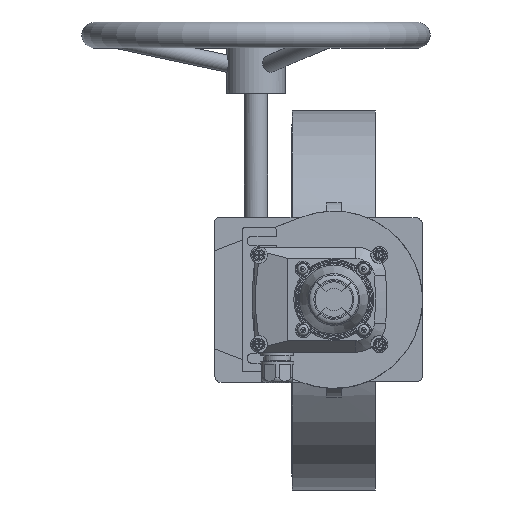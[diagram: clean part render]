
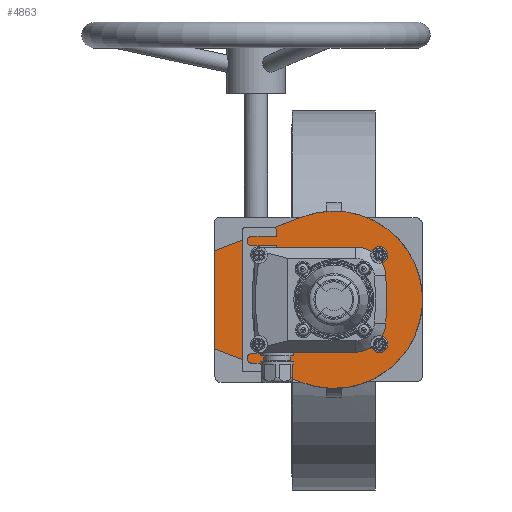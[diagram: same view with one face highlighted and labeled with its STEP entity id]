
A CAD part, top view. The second image highlights one B-rep face of the part: STEP entity #4863.
In plain terms, the highlighted planar face has unit normal (0, 0, 1).
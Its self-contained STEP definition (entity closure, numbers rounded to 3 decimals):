
#4863=ADVANCED_FACE('',(#17515),#17517,.T.);
#17515=FACE_BOUND('',#17516,.T.);
#17516=EDGE_LOOP('',(#28060,#28061,#28062,#28063));
#17517=PLANE('',#17518);
#17518=AXIS2_PLACEMENT_3D('',#17519,#17520,#17521);
#17519=CARTESIAN_POINT('',(1277.677,-4460.189,77.016));
#17520=DIRECTION('',(0.,0.,1.));
#17521=DIRECTION('',(0.,1.,0.));
#28060=ORIENTED_EDGE('',*,*,#35176,.T.);
#28061=ORIENTED_EDGE('',*,*,#35174,.T.);
#28062=ORIENTED_EDGE('',*,*,#35170,.T.);
#28063=ORIENTED_EDGE('',*,*,#35173,.T.);
#35170=EDGE_CURVE('',#40425,#40423,#40426,.T.);
#35173=EDGE_CURVE('',#40423,#40428,#40430,.T.);
#35174=EDGE_CURVE('',#40431,#40425,#40432,.T.);
#35176=EDGE_CURVE('',#40428,#40431,#40434,.T.);
#40423=VERTEX_POINT('',#58014);
#40425=VERTEX_POINT('',#58018);
#40426=LINE('',#58019,#58020);
#40428=VERTEX_POINT('',#58025);
#40430=LINE('',#58029,#58030);
#40431=VERTEX_POINT('',#58032);
#40432=CIRCLE('',#58033,72.501);
#40434=LINE('',#58040,#58041);
#58014=CARTESIAN_POINT('',(1202.358,-4420.181,77.016));
#58018=CARTESIAN_POINT('',(1273.912,-4392.569,77.016));
#58019=CARTESIAN_POINT('',(1273.912,-4392.569,77.016));
#58020=VECTOR('',#58021,1.);
#58021=DIRECTION('',(-0.933,-0.36,0.));
#58025=CARTESIAN_POINT('',(1202.668,-4500.354,77.016));
#58029=CARTESIAN_POINT('',(1202.358,-4420.181,77.016));
#58030=VECTOR('',#58031,1.);
#58031=DIRECTION('',(0.004,-1.,0.));
#58032=CARTESIAN_POINT('',(1273.912,-4527.846,77.016));
#58033=AXIS2_PLACEMENT_3D('',#58034,#58035,#58036);
#58034=CARTESIAN_POINT('',(1300.016,-4460.208,77.016));
#58035=DIRECTION('',(0.,0.,1.));
#58036=DIRECTION('',(-0.36,-0.933,0.));
#58040=CARTESIAN_POINT('',(1202.668,-4500.354,77.016));
#58041=VECTOR('',#58042,1.);
#58042=DIRECTION('',(0.933,-0.36,0.));
